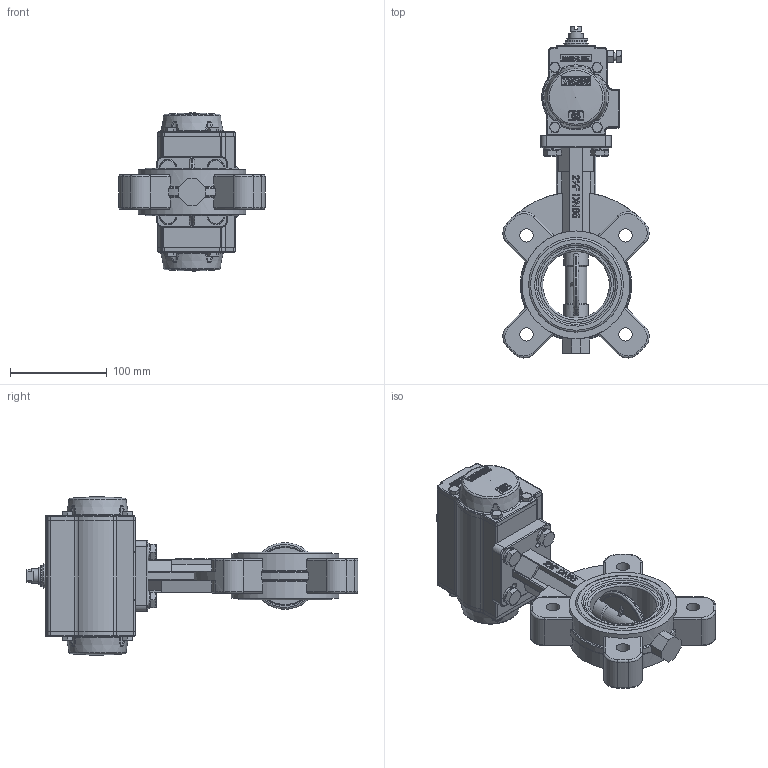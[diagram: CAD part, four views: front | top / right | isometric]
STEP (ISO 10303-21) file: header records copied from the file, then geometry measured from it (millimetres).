
FILE_DESCRIPTION((''),'2;1');
FILE_NAME('M:\3D-Files nach Lieferanten\TA-Produkte\angetriebene Armaturen\Register 8\Klappen\WM12 5340 E 065 DA063.stp','2021-12-02T13:36:34',('RL'),(''),'Autodesk Inventor 2012','Autodesk Inventor 2012','');
FILE_SCHEMA(('AUTOMOTIVE_DESIGN { 1 0 10303 214 1 1 1 1 }'));
Length unit declared in the file: millimetre
Products named in the file (1): WM12 5340 E 065 DA063
Bounding box: 151.36 x 343.68 x 163.98 mm (x, y, z)
Volume: 1599564.2 mm3; surface area: 179482.4 mm2
Topology: 1 solids, 4 shells, 1785 faces, 4626 edges, 2927 vertices
Faces by surface type: plane 754, bspline 467, cylinder 252, cone 179, torus 131, sphere 2
Full cylindrical faces by diameter (mm): 2 x2, 4.2 x8, 5 x5, 6.6 x4, 8 x2, 8.5 x2, 10 x12, 13.835 x4, 13.9 x1, 14.63 x4, 14.7 x1, 15.875 x1, 22 x1, 25 x5, 27.9 x1, 28 x1, 69 x1, 98 x2, 111.5 x2
Entity records: 82579 total; most frequent: CARTESIAN_POINT 41047, ORIENTED_EDGE 8882, DIRECTION 7257, EDGE_CURVE 4441, VERTEX_POINT 2858, AXIS2_PLACEMENT_3D 2682, EDGE_LOOP 2011, VECTOR 1893
